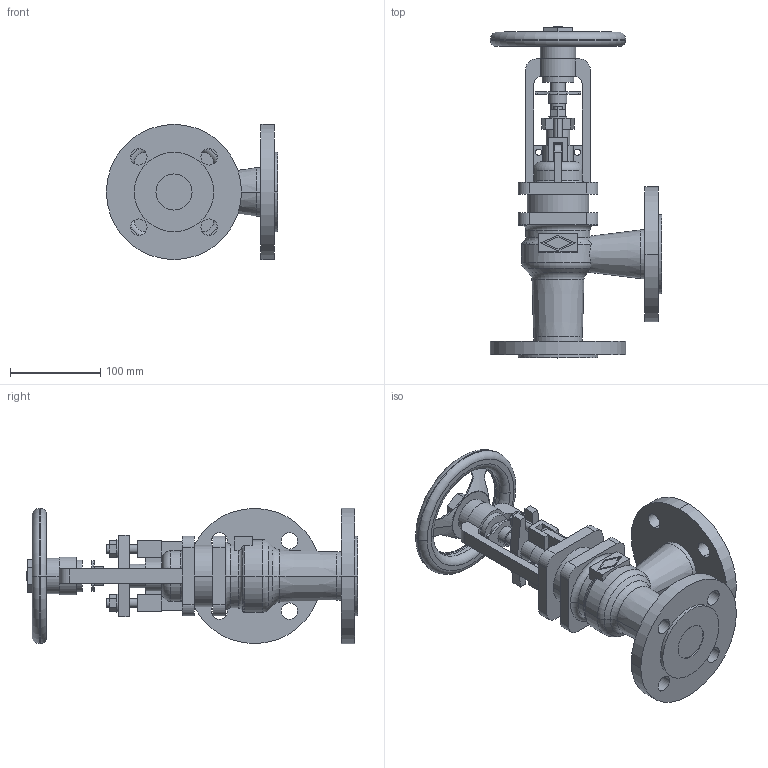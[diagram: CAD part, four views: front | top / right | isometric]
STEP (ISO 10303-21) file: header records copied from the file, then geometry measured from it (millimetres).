
FILE_DESCRIPTION(('OneSpaceDesigner STEP Export'),'2;1');
FILE_NAME('c000004438.stp','2010-05-17T 9:37:50',(''),(''),'OneSpace Designer STEP processor for AP214 (Solid Model)','OneSpace Modeling 15.50B 03-Nov-2007 (C) CoCreate Software GmbH','');
FILE_SCHEMA(('AUTOMOTIVE_DESIGN { 1 0 10303 214 1 1 1 1 }'));
Length unit declared in the file: millimetre
Products named in the file (1): 1
Bounding box: 190 x 368.4 x 150 mm (x, y, z)
Volume: 1755206.8 mm3; surface area: 240265.8 mm2
Topology: 1 solids, 1 shells, 299 faces, 796 edges, 522 vertices
Faces by surface type: plane 140, cylinder 117, torus 30, cone 12
Entity records: 11904 total; most frequent: CARTESIAN_POINT 2385, ORIENTED_EDGE 1584, DIRECTION 1331, EDGE_CURVE 792, VERTEX_POINT 518, AXIS2_PLACEMENT_3D 456, VECTOR 419, LINE 419
